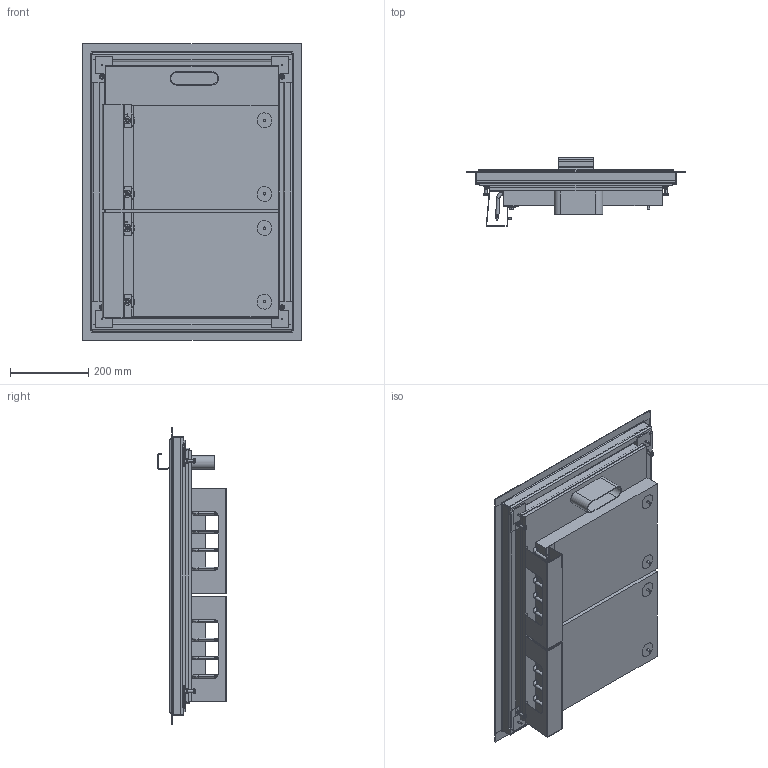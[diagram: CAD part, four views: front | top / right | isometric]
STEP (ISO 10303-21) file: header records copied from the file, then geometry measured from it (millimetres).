
FILE_DESCRIPTION (( 'STEP AP214' ), '1' );
FILE_NAME ('MS-G-50_311041.STEP', '2024-01-26T15:16:55', ( '' ), ( '' ), 'SwSTEP 2.0', 'SolidWorks 2023', '' );
FILE_SCHEMA (( 'AUTOMOTIVE_DESIGN' ));
Length unit declared in the file: millimetre
Products named in the file (1): MS-G-50_311041
Bounding box: 558 x 174.8 x 757.98 mm (x, y, z)
Volume: 13545555.8 mm3; surface area: 1898105.7 mm2
Topology: 1 solids, 40 shells, 2035 faces, 5009 edges, 3068 vertices
Faces by surface type: plane 1001, cylinder 574, cone 336, torus 112, bspline 12
Entity records: 63273 total; most frequent: CARTESIAN_POINT 16123, ORIENTED_EDGE 9898, DIRECTION 9760, EDGE_CURVE 4949, AXIS2_PLACEMENT_3D 3631, VERTEX_POINT 3068, LINE 2498, VECTOR 2498
